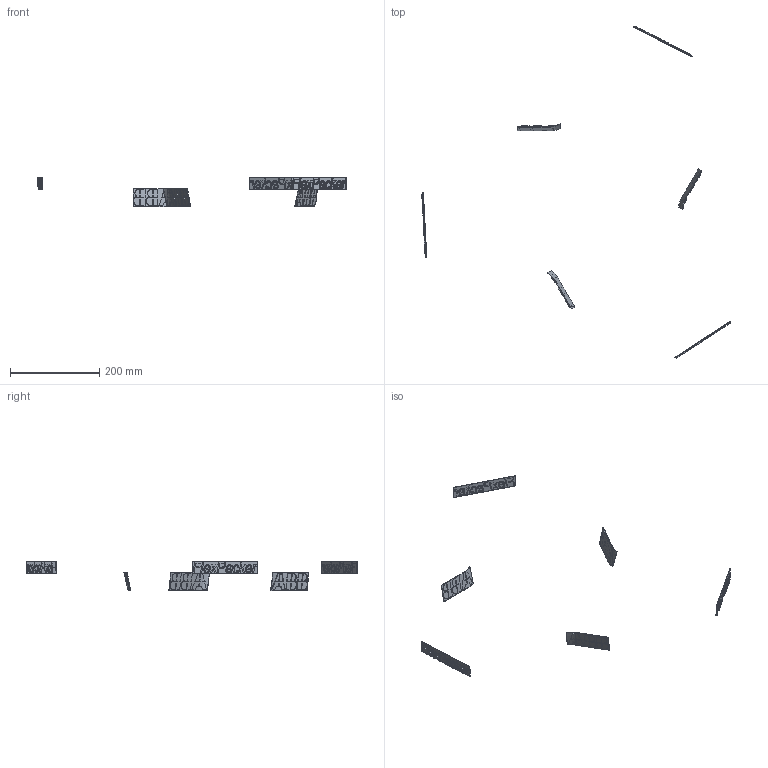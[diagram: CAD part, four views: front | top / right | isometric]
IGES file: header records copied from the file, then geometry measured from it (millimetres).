
Start section: SolidWorks IGES file using analytic representation for surfaces
Global section: file name: C:\Data\SAP_DOC_20200123_IRB390\Lättmodeller_IRB390\Final_4axis\IRB390_15kg_1300_STD_rev0_IGES_J\IRB390_X_1300_STD_ABB_LOGO_00.IGS; native system: SolidWorks 2018; preprocessor: SolidWorks 2018; author: sestdan2; date: 200204.155614; units: millimetre
Bounding box: 692.18 x 744.89 x 65.99 mm (x, y, z)
Surface area: 59192.5 mm2 (no closed solid volume)
Topology: 0 solids, 0 shells, 654 faces, 7188 edges, 7188 vertices
Faces by surface type: bspline 654
